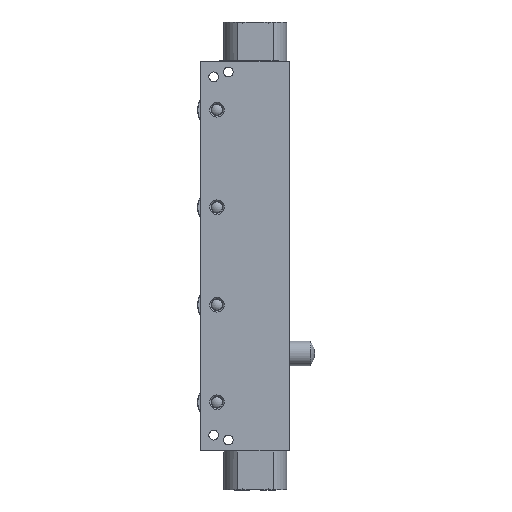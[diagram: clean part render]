
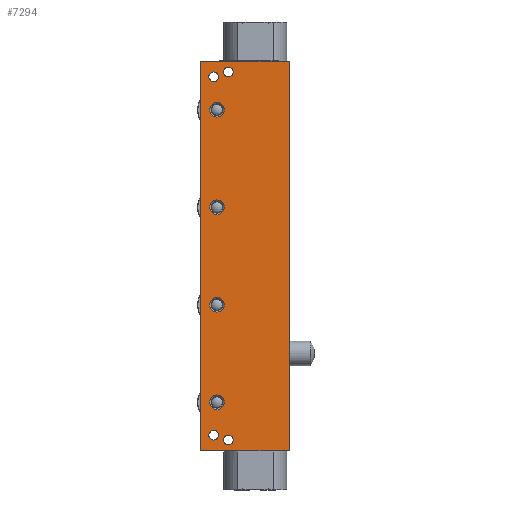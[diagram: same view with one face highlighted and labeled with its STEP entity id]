
A CAD part, left-side view. The second image highlights one B-rep face of the part: STEP entity #7294.
In plain terms, the highlighted planar face has unit normal (-1, 0, 0).
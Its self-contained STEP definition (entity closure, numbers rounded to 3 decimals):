
#150=FACE_BOUND('',#990,.T.);
#151=FACE_BOUND('',#991,.T.);
#152=FACE_BOUND('',#992,.T.);
#153=FACE_BOUND('',#993,.T.);
#154=FACE_BOUND('',#994,.T.);
#155=FACE_BOUND('',#995,.T.);
#156=FACE_BOUND('',#996,.T.);
#157=FACE_BOUND('',#997,.T.);
#392=PLANE('',#7870);
#589=FACE_OUTER_BOUND('',#989,.T.);
#989=EDGE_LOOP('',(#5069,#5070,#5071,#5072));
#990=EDGE_LOOP('',(#5073));
#991=EDGE_LOOP('',(#5074));
#992=EDGE_LOOP('',(#5075,#5076));
#993=EDGE_LOOP('',(#5077,#5078));
#994=EDGE_LOOP('',(#5079,#5080));
#995=EDGE_LOOP('',(#5081,#5082));
#996=EDGE_LOOP('',(#5083));
#997=EDGE_LOOP('',(#5084));
#1409=LINE('',#11771,#1755);
#1449=LINE('',#12159,#1795);
#1450=LINE('',#12161,#1796);
#1451=LINE('',#12162,#1797);
#1755=VECTOR('',#9037,10.);
#1795=VECTOR('',#9221,10.);
#1796=VECTOR('',#9222,10.);
#1797=VECTOR('',#9223,10.);
#2217=CIRCLE('',#7869,3.);
#2218=CIRCLE('',#7871,3.);
#2219=CIRCLE('',#7872,3.);
#2220=CIRCLE('',#7873,2.);
#2221=CIRCLE('',#7874,2.);
#2222=CIRCLE('',#7875,2.);
#2223=CIRCLE('',#7876,2.);
#2224=CIRCLE('',#7877,2.);
#2225=CIRCLE('',#7878,2.);
#2226=CIRCLE('',#7879,2.);
#2227=CIRCLE('',#7880,2.);
#2228=CIRCLE('',#7881,3.);
#2857=VERTEX_POINT('',#11768);
#2858=VERTEX_POINT('',#11770);
#2915=VERTEX_POINT('',#12154);
#2916=VERTEX_POINT('',#12158);
#2917=VERTEX_POINT('',#12160);
#2918=VERTEX_POINT('',#12163);
#2919=VERTEX_POINT('',#12165);
#2920=VERTEX_POINT('',#12167);
#2921=VERTEX_POINT('',#12168);
#2922=VERTEX_POINT('',#12171);
#2923=VERTEX_POINT('',#12172);
#2924=VERTEX_POINT('',#12175);
#2925=VERTEX_POINT('',#12176);
#2926=VERTEX_POINT('',#12179);
#2927=VERTEX_POINT('',#12180);
#2928=VERTEX_POINT('',#12183);
#3659=EDGE_CURVE('',#2857,#2858,#1409,.T.);
#3763=EDGE_CURVE('',#2915,#2915,#2217,.T.);
#3765=EDGE_CURVE('',#2916,#2858,#1449,.T.);
#3766=EDGE_CURVE('',#2917,#2857,#1450,.T.);
#3767=EDGE_CURVE('',#2916,#2917,#1451,.T.);
#3768=EDGE_CURVE('',#2918,#2918,#2218,.T.);
#3769=EDGE_CURVE('',#2919,#2919,#2219,.T.);
#3770=EDGE_CURVE('',#2920,#2921,#2220,.T.);
#3771=EDGE_CURVE('',#2921,#2920,#2221,.T.);
#3772=EDGE_CURVE('',#2922,#2923,#2222,.T.);
#3773=EDGE_CURVE('',#2923,#2922,#2223,.T.);
#3774=EDGE_CURVE('',#2924,#2925,#2224,.T.);
#3775=EDGE_CURVE('',#2925,#2924,#2225,.T.);
#3776=EDGE_CURVE('',#2926,#2927,#2226,.T.);
#3777=EDGE_CURVE('',#2927,#2926,#2227,.T.);
#3778=EDGE_CURVE('',#2928,#2928,#2228,.T.);
#5069=ORIENTED_EDGE('',*,*,#3765,.T.);
#5070=ORIENTED_EDGE('',*,*,#3659,.F.);
#5071=ORIENTED_EDGE('',*,*,#3766,.F.);
#5072=ORIENTED_EDGE('',*,*,#3767,.F.);
#5073=ORIENTED_EDGE('',*,*,#3768,.F.);
#5074=ORIENTED_EDGE('',*,*,#3769,.F.);
#5075=ORIENTED_EDGE('',*,*,#3770,.T.);
#5076=ORIENTED_EDGE('',*,*,#3771,.T.);
#5077=ORIENTED_EDGE('',*,*,#3772,.T.);
#5078=ORIENTED_EDGE('',*,*,#3773,.T.);
#5079=ORIENTED_EDGE('',*,*,#3774,.T.);
#5080=ORIENTED_EDGE('',*,*,#3775,.T.);
#5081=ORIENTED_EDGE('',*,*,#3776,.T.);
#5082=ORIENTED_EDGE('',*,*,#3777,.T.);
#5083=ORIENTED_EDGE('',*,*,#3778,.F.);
#5084=ORIENTED_EDGE('',*,*,#3763,.F.);
#7294=ADVANCED_FACE('',(#589,#150,#151,#152,#153,#154,#155,#156,#157),#392,
 .T.);
#7869=AXIS2_PLACEMENT_3D('',#12155,#9216,#9217);
#7870=AXIS2_PLACEMENT_3D('',#12157,#9219,#9220);
#7871=AXIS2_PLACEMENT_3D('',#12164,#9224,#9225);
#7872=AXIS2_PLACEMENT_3D('',#12166,#9226,#9227);
#7873=AXIS2_PLACEMENT_3D('',#12169,#9228,#9229);
#7874=AXIS2_PLACEMENT_3D('',#12170,#9230,#9231);
#7875=AXIS2_PLACEMENT_3D('',#12173,#9232,#9233);
#7876=AXIS2_PLACEMENT_3D('',#12174,#9234,#9235);
#7877=AXIS2_PLACEMENT_3D('',#12177,#9236,#9237);
#7878=AXIS2_PLACEMENT_3D('',#12178,#9238,#9239);
#7879=AXIS2_PLACEMENT_3D('',#12181,#9240,#9241);
#7880=AXIS2_PLACEMENT_3D('',#12182,#9242,#9243);
#7881=AXIS2_PLACEMENT_3D('',#12184,#9244,#9245);
#9037=DIRECTION('',(0.,1.,0.));
#9216=DIRECTION('center_axis',(-1.,0.,0.));
#9217=DIRECTION('ref_axis',(0.,0.,-1.));
#9219=DIRECTION('center_axis',(-1.,0.,0.));
#9220=DIRECTION('ref_axis',(0.,1.,0.));
#9221=DIRECTION('',(0.,0.,-1.));
#9222=DIRECTION('',(0.,0.,-1.));
#9223=DIRECTION('',(0.,-1.,0.));
#9224=DIRECTION('center_axis',(-1.,0.,0.));
#9225=DIRECTION('ref_axis',(0.,0.,-1.));
#9226=DIRECTION('center_axis',(-1.,0.,0.));
#9227=DIRECTION('ref_axis',(0.,0.,-1.));
#9228=DIRECTION('center_axis',(1.,0.,0.));
#9229=DIRECTION('ref_axis',(0.,0.,1.));
#9230=DIRECTION('center_axis',(1.,0.,0.));
#9231=DIRECTION('ref_axis',(0.,0.,1.));
#9232=DIRECTION('center_axis',(1.,0.,0.));
#9233=DIRECTION('ref_axis',(0.,0.,1.));
#9234=DIRECTION('center_axis',(1.,0.,0.));
#9235=DIRECTION('ref_axis',(0.,0.,1.));
#9236=DIRECTION('center_axis',(1.,0.,0.));
#9237=DIRECTION('ref_axis',(0.,0.,-1.));
#9238=DIRECTION('center_axis',(1.,0.,0.));
#9239=DIRECTION('ref_axis',(0.,0.,-1.));
#9240=DIRECTION('center_axis',(1.,0.,0.));
#9241=DIRECTION('ref_axis',(0.,0.,-1.));
#9242=DIRECTION('center_axis',(1.,0.,0.));
#9243=DIRECTION('ref_axis',(0.,0.,-1.));
#9244=DIRECTION('center_axis',(-1.,0.,0.));
#9245=DIRECTION('ref_axis',(0.,0.,-1.));
#11768=CARTESIAN_POINT('',(-10.9,-18.25,-80.));
#11770=CARTESIAN_POINT('',(-10.9,18.25,-80.));
#11771=CARTESIAN_POINT('',(-10.9,-18.25,-80.));
#12154=CARTESIAN_POINT('',(-10.9,11.45,63.));
#12155=CARTESIAN_POINT('Origin',(-10.9,11.45,60.));
#12157=CARTESIAN_POINT('Origin',(-10.9,-18.25,0.));
#12158=CARTESIAN_POINT('',(-10.9,18.25,80.));
#12159=CARTESIAN_POINT('',(-10.9,18.25,0.));
#12160=CARTESIAN_POINT('',(-10.9,-18.25,80.));
#12161=CARTESIAN_POINT('',(-10.9,-18.25,0.));
#12162=CARTESIAN_POINT('',(-10.9,-18.25,80.));
#12163=CARTESIAN_POINT('',(-10.9,11.45,23.));
#12164=CARTESIAN_POINT('Origin',(-10.9,11.45,20.));
#12165=CARTESIAN_POINT('',(-10.9,11.45,-57.));
#12166=CARTESIAN_POINT('Origin',(-10.9,11.45,-60.));
#12167=CARTESIAN_POINT('',(-10.9,6.75,-73.5));
#12168=CARTESIAN_POINT('',(-10.9,6.75,-77.5));
#12169=CARTESIAN_POINT('Origin',(-10.9,6.75,-75.5));
#12170=CARTESIAN_POINT('Origin',(-10.9,6.75,-75.5));
#12171=CARTESIAN_POINT('',(-10.9,12.75,-71.5));
#12172=CARTESIAN_POINT('',(-10.9,12.75,-75.5));
#12173=CARTESIAN_POINT('Origin',(-10.9,12.75,-73.5));
#12174=CARTESIAN_POINT('Origin',(-10.9,12.75,-73.5));
#12175=CARTESIAN_POINT('',(-10.9,6.75,73.5));
#12176=CARTESIAN_POINT('',(-10.9,6.75,77.5));
#12177=CARTESIAN_POINT('Origin',(-10.9,6.75,75.5));
#12178=CARTESIAN_POINT('Origin',(-10.9,6.75,75.5));
#12179=CARTESIAN_POINT('',(-10.9,12.75,71.5));
#12180=CARTESIAN_POINT('',(-10.9,12.75,75.5));
#12181=CARTESIAN_POINT('Origin',(-10.9,12.75,73.5));
#12182=CARTESIAN_POINT('Origin',(-10.9,12.75,73.5));
#12183=CARTESIAN_POINT('',(-10.9,11.45,-17.));
#12184=CARTESIAN_POINT('Origin',(-10.9,11.45,-20.));
